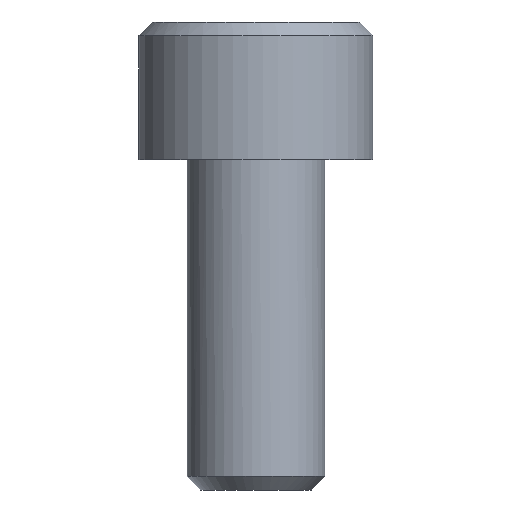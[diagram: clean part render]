
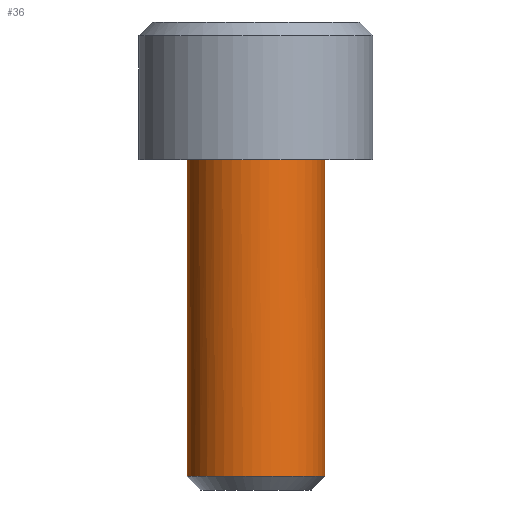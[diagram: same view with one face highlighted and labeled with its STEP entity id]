
A CAD part, left-side view. The second image highlights one B-rep face of the part: STEP entity #36.
In plain terms, the highlighted free-form (B-spline) face has degree [2, 1] with [9, 2] control points.
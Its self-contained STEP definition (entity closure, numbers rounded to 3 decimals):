
#36=ADVANCED_FACE('',(#61),#755,.T.);
#61=FACE_OUTER_BOUND('',#86,.T.);
#86=EDGE_LOOP('',(#119,#120,#121,#122));
#119=ORIENTED_EDGE('',*,*,#532,.T.);
#120=ORIENTED_EDGE('',*,*,#533,.T.);
#121=ORIENTED_EDGE('',*,*,#534,.T.);
#122=ORIENTED_EDGE('',*,*,#535,.T.);
#222=(
BOUNDED_CURVE()
B_SPLINE_CURVE(2,(#1121,#1122,#1123,#1124,#1125),.UNSPECIFIED.,.F.,.F.)
B_SPLINE_CURVE_WITH_KNOTS((3,2,3),(0.,3.927,7.854),
 .UNSPECIFIED.)
CURVE()
GEOMETRIC_REPRESENTATION_ITEM()
RATIONAL_B_SPLINE_CURVE((1.,0.707,1.,0.707,1.))
REPRESENTATION_ITEM('')
);
#223=(
BOUNDED_CURVE()
B_SPLINE_CURVE(2,(#1132,#1133,#1134,#1135,#1136),.UNSPECIFIED.,.F.,.F.)
B_SPLINE_CURVE_WITH_KNOTS((3,2,3),(-7.854,-3.927,0.),
 .UNSPECIFIED.)
CURVE()
GEOMETRIC_REPRESENTATION_ITEM()
RATIONAL_B_SPLINE_CURVE((1.,0.707,1.,0.707,1.))
REPRESENTATION_ITEM('')
);
#250=(
BOUNDED_CURVE()
B_SPLINE_CURVE(2,(#1425,#1426,#1427,#1428,#1429),.UNSPECIFIED.,.F.,.F.)
B_SPLINE_CURVE_WITH_KNOTS((3,2,3),(-7.854,-3.927,0.),
 .UNSPECIFIED.)
CURVE()
GEOMETRIC_REPRESENTATION_ITEM()
RATIONAL_B_SPLINE_CURVE((1.,0.707,1.,0.707,1.))
REPRESENTATION_ITEM('')
);
#263=PCURVE('',#755,#371);
#264=PCURVE('',#755,#372);
#265=PCURVE('',#755,#373);
#266=PCURVE('',#755,#374);
#270=PCURVE('',#756,#378);
#339=PCURVE('',#760,#447);
#341=PCURVE('',#760,#449);
#346=PCURVE('',#751,#454);
#371=DEFINITIONAL_REPRESENTATION('',(#592),#1481);
#372=DEFINITIONAL_REPRESENTATION('',(#593),#1481);
#373=DEFINITIONAL_REPRESENTATION('',(#595),#1481);
#374=DEFINITIONAL_REPRESENTATION('',(#596),#1481);
#378=DEFINITIONAL_REPRESENTATION('',(#602),#1481);
#447=DEFINITIONAL_REPRESENTATION('',(#687),#1481);
#449=DEFINITIONAL_REPRESENTATION('',(#689),#1481);
#454=DEFINITIONAL_REPRESENTATION('',(#250),#1481);
#478=SURFACE_CURVE('',#591,(#263,#339),.PCURVE_S1.);
#479=SURFACE_CURVE('',#222,(#264,#270),.PCURVE_S1.);
#480=SURFACE_CURVE('',#594,(#265,#341),.PCURVE_S1.);
#481=SURFACE_CURVE('',#223,(#266,#346),.PCURVE_S1.);
#532=EDGE_CURVE('',#711,#712,#478,.T.);
#533=EDGE_CURVE('',#712,#713,#479,.T.);
#534=EDGE_CURVE('',#713,#714,#480,.T.);
#535=EDGE_CURVE('',#714,#711,#481,.T.);
#591=B_SPLINE_CURVE_WITH_KNOTS('',1,(#1117,#1118),.UNSPECIFIED.,.F.,.F.,
(2,2),(-11.51,0.),.UNSPECIFIED.);
#592=B_SPLINE_CURVE_WITH_KNOTS('',1,(#1119,#1120),.UNSPECIFIED.,.F.,.F.,
(2,2),(-11.51,0.),.UNSPECIFIED.);
#593=B_SPLINE_CURVE_WITH_KNOTS('',1,(#1126,#1127),.UNSPECIFIED.,.F.,.F.,
(2,2),(0.,7.854),.UNSPECIFIED.);
#594=B_SPLINE_CURVE_WITH_KNOTS('',1,(#1128,#1129),.UNSPECIFIED.,.F.,.F.,
(2,2),(-11.51,0.),.UNSPECIFIED.);
#595=B_SPLINE_CURVE_WITH_KNOTS('',1,(#1130,#1131),.UNSPECIFIED.,.F.,.F.,
(2,2),(-11.51,0.),.UNSPECIFIED.);
#596=B_SPLINE_CURVE_WITH_KNOTS('',1,(#1137,#1138),.UNSPECIFIED.,.F.,.F.,
(2,2),(-7.854,0.),.UNSPECIFIED.);
#602=B_SPLINE_CURVE_WITH_KNOTS('',1,(#1154,#1155),.UNSPECIFIED.,.F.,.F.,
(2,2),(0.,7.854),.UNSPECIFIED.);
#687=B_SPLINE_CURVE_WITH_KNOTS('',1,(#1392,#1393),.UNSPECIFIED.,.F.,.F.,
(2,2),(-11.51,0.),.UNSPECIFIED.);
#689=B_SPLINE_CURVE_WITH_KNOTS('',1,(#1401,#1402),.UNSPECIFIED.,.F.,.F.,
(2,2),(-11.51,0.),.UNSPECIFIED.);
#711=VERTEX_POINT('',#1051);
#712=VERTEX_POINT('',#1052);
#713=VERTEX_POINT('',#1053);
#714=VERTEX_POINT('',#1054);
#751=PLANE('',#818);
#755=(
BOUNDED_SURFACE()
B_SPLINE_SURFACE(2,1,((#886,#887),(#888,#889),(#890,#891),(#892,#893),(#894,
#895),(#896,#897),(#898,#899),(#900,#901),(#902,#903)),.UNSPECIFIED.,.T.,
 .F.,.F.)
B_SPLINE_SURFACE_WITH_KNOTS((3,2,2,2,3),(2,2),(0.,1.571,3.142,
4.712,6.283),(0.,13.814),.UNSPECIFIED.)
GEOMETRIC_REPRESENTATION_ITEM()
RATIONAL_B_SPLINE_SURFACE(((1.,1.),(0.707,0.707),
(1.,1.),(0.707,0.707),(1.,1.),(0.707,
0.707),(1.,1.),(0.707,0.707),(1.,1.)))
REPRESENTATION_ITEM('')
SURFACE()
);
#756=(
BOUNDED_SURFACE()
B_SPLINE_SURFACE(2,1,((#904,#905),(#906,#907),(#908,#909),(#910,#911),(#912,
#913),(#914,#915),(#916,#917),(#918,#919),(#920,#921)),.UNSPECIFIED.,.T.,
 .F.,.F.)
B_SPLINE_SURFACE_WITH_KNOTS((3,2,2,2,3),(2,2),(0.,1.571,3.142,
4.712,6.283),(0.,3.891),.UNSPECIFIED.)
GEOMETRIC_REPRESENTATION_ITEM()
RATIONAL_B_SPLINE_SURFACE(((1.,1.),(0.707,0.707),
(1.,1.),(0.707,0.707),(1.,1.),(0.707,
0.707),(1.,1.),(0.707,0.707),(1.,1.)))
REPRESENTATION_ITEM('')
SURFACE()
);
#760=(
BOUNDED_SURFACE()
B_SPLINE_SURFACE(2,1,((#989,#990),(#991,#992),(#993,#994),(#995,#996),(#997,
#998),(#999,#1000),(#1001,#1002),(#1003,#1004),(#1005,#1006)),
 .UNSPECIFIED.,.T.,.F.,.F.)
B_SPLINE_SURFACE_WITH_KNOTS((3,2,2,2,3),(2,2),(0.,1.571,3.142,
4.712,6.283),(0.,13.814),.UNSPECIFIED.)
GEOMETRIC_REPRESENTATION_ITEM()
RATIONAL_B_SPLINE_SURFACE(((1.,1.),(0.707,0.707),
(1.,1.),(0.707,0.707),(1.,1.),(0.707,
0.707),(1.,1.),(0.707,0.707),(1.,1.)))
REPRESENTATION_ITEM('')
SURFACE()
);
#818=AXIS2_PLACEMENT_3D('',#1007,#840,$);
#840=DIRECTION('',(1.,0.,0.));
#886=CARTESIAN_POINT('',(-1.152,-2.5,0.));
#887=CARTESIAN_POINT('',(12.662,-2.5,0.));
#888=CARTESIAN_POINT('',(-1.152,-2.5,-2.5));
#889=CARTESIAN_POINT('',(12.662,-2.5,-2.5));
#890=CARTESIAN_POINT('',(-1.152,0.,-2.5));
#891=CARTESIAN_POINT('',(12.662,0.,-2.5));
#892=CARTESIAN_POINT('',(-1.152,2.5,-2.5));
#893=CARTESIAN_POINT('',(12.662,2.5,-2.5));
#894=CARTESIAN_POINT('',(-1.152,2.5,0.));
#895=CARTESIAN_POINT('',(12.662,2.5,0.));
#896=CARTESIAN_POINT('',(-1.152,2.5,2.5));
#897=CARTESIAN_POINT('',(12.662,2.5,2.5));
#898=CARTESIAN_POINT('',(-1.152,0.,2.5));
#899=CARTESIAN_POINT('',(12.662,0.,2.5));
#900=CARTESIAN_POINT('',(-1.152,-2.5,2.5));
#901=CARTESIAN_POINT('',(12.662,-2.5,2.5));
#902=CARTESIAN_POINT('',(-1.152,-2.5,0.));
#903=CARTESIAN_POINT('',(12.662,-2.5,0.));
#904=CARTESIAN_POINT('',(14.01,0.,0.));
#905=CARTESIAN_POINT('',(11.258,-2.751,0.));
#906=CARTESIAN_POINT('',(14.01,0.,0.));
#907=CARTESIAN_POINT('',(11.258,-2.751,2.751));
#908=CARTESIAN_POINT('',(14.01,0.,0.));
#909=CARTESIAN_POINT('',(11.258,0.,2.751));
#910=CARTESIAN_POINT('',(14.01,0.,0.));
#911=CARTESIAN_POINT('',(11.258,2.751,2.751));
#912=CARTESIAN_POINT('',(14.01,0.,0.));
#913=CARTESIAN_POINT('',(11.258,2.751,0.));
#914=CARTESIAN_POINT('',(14.01,0.,0.));
#915=CARTESIAN_POINT('',(11.258,2.751,-2.751));
#916=CARTESIAN_POINT('',(14.01,0.,0.));
#917=CARTESIAN_POINT('',(11.258,0.,-2.751));
#918=CARTESIAN_POINT('',(14.01,0.,0.));
#919=CARTESIAN_POINT('',(11.258,-2.751,-2.751));
#920=CARTESIAN_POINT('',(14.01,0.,0.));
#921=CARTESIAN_POINT('',(11.258,-2.751,0.));
#989=CARTESIAN_POINT('',(-1.152,2.5,0.));
#990=CARTESIAN_POINT('',(12.662,2.5,0.));
#991=CARTESIAN_POINT('',(-1.152,2.5,2.5));
#992=CARTESIAN_POINT('',(12.662,2.5,2.5));
#993=CARTESIAN_POINT('',(-1.152,0.,2.5));
#994=CARTESIAN_POINT('',(12.662,0.,2.5));
#995=CARTESIAN_POINT('',(-1.152,-2.5,2.5));
#996=CARTESIAN_POINT('',(12.662,-2.5,2.5));
#997=CARTESIAN_POINT('',(-1.152,-2.5,0.));
#998=CARTESIAN_POINT('',(12.662,-2.5,0.));
#999=CARTESIAN_POINT('',(-1.152,-2.5,-2.5));
#1000=CARTESIAN_POINT('',(12.662,-2.5,-2.5));
#1001=CARTESIAN_POINT('',(-1.152,0.,-2.5));
#1002=CARTESIAN_POINT('',(12.662,0.,-2.5));
#1003=CARTESIAN_POINT('',(-1.152,2.5,-2.5));
#1004=CARTESIAN_POINT('',(12.662,2.5,-2.5));
#1005=CARTESIAN_POINT('',(-1.152,2.5,0.));
#1006=CARTESIAN_POINT('',(12.662,2.5,0.));
#1007=CARTESIAN_POINT('',(0.,-5.101,5.101));
#1051=CARTESIAN_POINT('',(0.,0.,2.5));
#1052=CARTESIAN_POINT('',(11.51,0.,2.5));
#1053=CARTESIAN_POINT('',(11.51,0.,-2.5));
#1054=CARTESIAN_POINT('',(0.,0.,-2.5));
#1117=CARTESIAN_POINT('',(0.,0.,2.5));
#1118=CARTESIAN_POINT('',(11.51,0.,2.5));
#1119=CARTESIAN_POINT('',(4.712,1.152));
#1120=CARTESIAN_POINT('',(4.712,12.662));
#1121=CARTESIAN_POINT('',(11.51,0.,2.5));
#1122=CARTESIAN_POINT('',(11.51,2.5,2.5));
#1123=CARTESIAN_POINT('',(11.51,2.5,0.));
#1124=CARTESIAN_POINT('',(11.51,2.5,-2.5));
#1125=CARTESIAN_POINT('',(11.51,0.,-2.5));
#1126=CARTESIAN_POINT('',(4.712,12.662));
#1127=CARTESIAN_POINT('',(1.571,12.662));
#1128=CARTESIAN_POINT('',(11.51,0.,-2.5));
#1129=CARTESIAN_POINT('',(0.,0.,-2.5));
#1130=CARTESIAN_POINT('',(1.571,12.662));
#1131=CARTESIAN_POINT('',(1.571,1.152));
#1132=CARTESIAN_POINT('',(0.,0.,-2.5));
#1133=CARTESIAN_POINT('',(0.,2.5,-2.5));
#1134=CARTESIAN_POINT('',(0.,2.5,0.));
#1135=CARTESIAN_POINT('',(0.,2.5,2.5));
#1136=CARTESIAN_POINT('',(0.,0.,2.5));
#1137=CARTESIAN_POINT('',(1.571,1.152));
#1138=CARTESIAN_POINT('',(4.712,1.152));
#1154=CARTESIAN_POINT('',(1.571,3.536));
#1155=CARTESIAN_POINT('',(4.712,3.536));
#1392=CARTESIAN_POINT('',(1.571,1.152));
#1393=CARTESIAN_POINT('',(1.571,12.662));
#1401=CARTESIAN_POINT('',(4.712,12.662));
#1402=CARTESIAN_POINT('',(4.712,1.152));
#1425=CARTESIAN_POINT('',(5.875,0.));
#1426=CARTESIAN_POINT('',(5.875,2.5));
#1427=CARTESIAN_POINT('',(3.375,2.5));
#1428=CARTESIAN_POINT('',(0.875,2.5));
#1429=CARTESIAN_POINT('',(0.875,0.));
#1481=(
GEOMETRIC_REPRESENTATION_CONTEXT(2)
PARAMETRIC_REPRESENTATION_CONTEXT()
REPRESENTATION_CONTEXT('pspace','')
);
